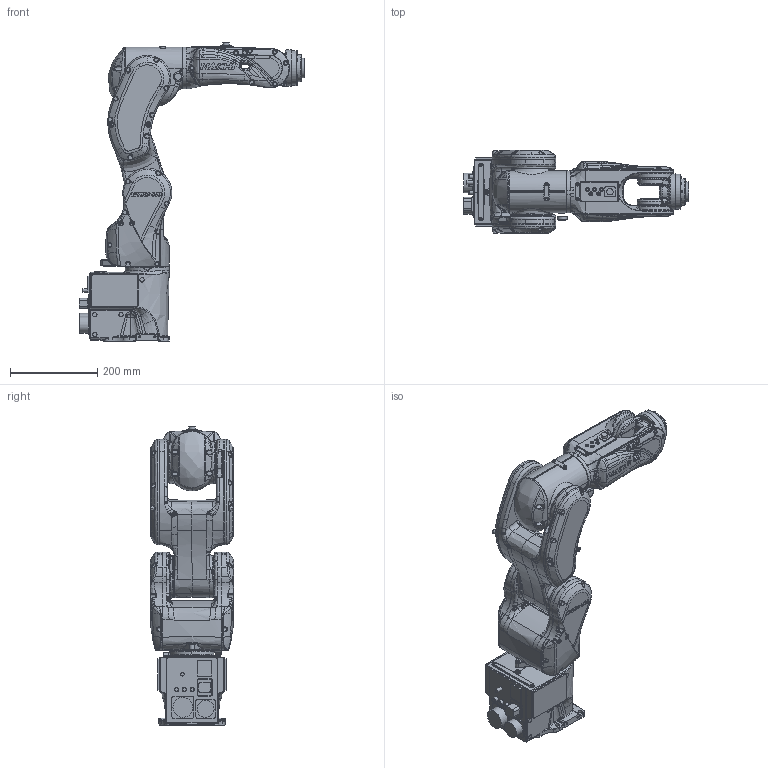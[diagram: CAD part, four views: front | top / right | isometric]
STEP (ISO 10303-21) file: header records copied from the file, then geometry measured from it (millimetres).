
FILE_DESCRIPTION(/* description */ (''),/* implementation_level */ '2;1');
FILE_NAME(/* name */ 'MZ04D-01 v3.step',/* time_stamp */ '2022-11-15T15:49:05+03:00',/* author */ (''),/* organization */ (''),/* preprocessor_version */ 'ST-DEVELOPER v19.2',/* originating_system */ 'Autodesk Translation Framework v11.17.0.187',/* authorisation */ '');
FILE_SCHEMA (('AUTOMOTIVE_DESIGN { 1 0 10303 214 3 1 1 }'));
Products named in the file (8): MZ04D-01; Base; J1; J2; J3; J6; J5; J4
Assembly tree (7 placements, depth 2):
  MZ04D-01
    Base
    J1
    J2
    J3
    J6
    J5
    J4
Bounding box: 515.4 x 191 x 682.85 mm (x, y, z)
Volume: 14319721.7 mm3; surface area: 1054711.9 mm2
Topology: 15 solids, 17 shells, 4286 faces, 11601 edges, 7399 vertices
Faces by surface type: bspline 2431, plane 831, cylinder 705, cone 153, torus 140, sphere 26
Full cylindrical faces by diameter (mm): 3.242 x14, 4.134 x9, 4.3 x1, 4.8 x2, 4.917 x4, 5 x2, 5.1 x1, 5.5 x10, 6 x16, 6.2 x2, 8 x9, 9 x9, 10 x16, 12 x1, 14.8 x1, 21 x3, 22 x1, 23.5 x1, 38 x1, 39 x1, 45 x1, 45.3 x1, 52 x1, 59 x1, 60 x1, 62 x1, 64 x2, 64.1 x1, 66.5 x1, 69.6 x1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
Entity records: 451203 total; most frequent: CARTESIAN_POINT 359593, ORIENTED_EDGE 23010, DIRECTION 12795, EDGE_CURVE 11505, VERTEX_POINT 7395, B_SPLINE_CURVE_WITH_KNOTS 5709, AXIS2_PLACEMENT_3D 5135, EDGE_LOOP 4458
